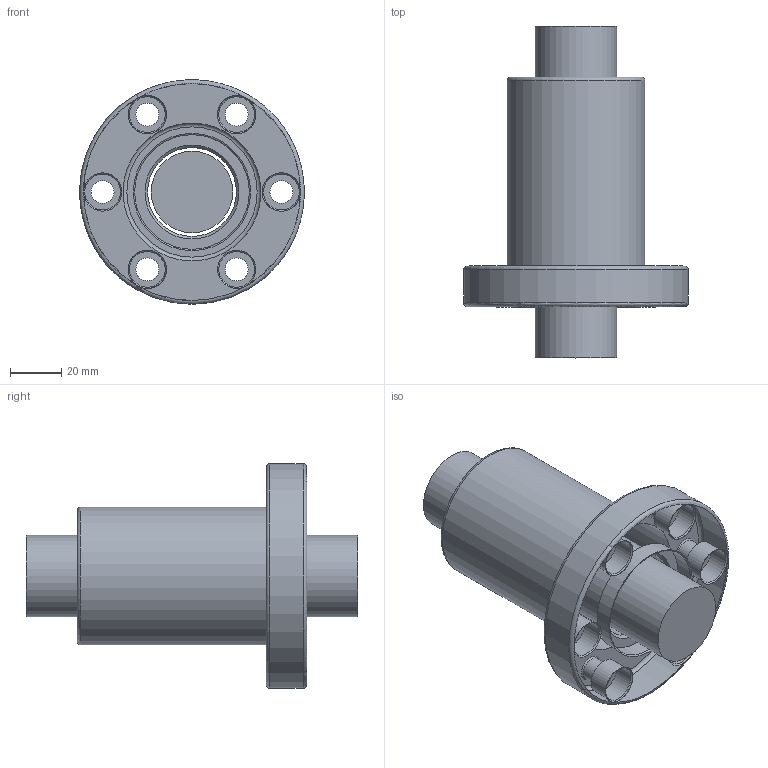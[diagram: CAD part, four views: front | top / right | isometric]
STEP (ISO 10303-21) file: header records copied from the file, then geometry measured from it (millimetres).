
FILE_DESCRIPTION(/* description */ (''),/* implementation_level */ '2;1');
FILE_NAME(/* name */ '3210T4N.prt.step',/* time_stamp */ '2008-12-05T09:36:29+08:00',/* author */ (''),/* organization */ (''),/* preprocessor_version */ 'ST-DEVELOPER v11',/* originating_system */ 'SIEMENS UGS NX 6.0',/* authorisation */ '');
FILE_SCHEMA (('AUTOMOTIVE_DESIGN { 1 0 10303 214 1 1 1 1 }'));
Length unit declared in the file: millimetre
Products named in the file (1): 3210T4N
Bounding box: 88 x 130 x 88 mm (x, y, z)
Volume: 264940.4 mm3; surface area: 54168.9 mm2
Topology: 2 solids, 2 shells, 50 faces, 115 edges, 72 vertices
Faces by surface type: cylinder 18, cone 14, plane 13, torus 5
Full cylindrical faces by diameter (mm): 9 x6, 14 x6, 31.95 x1, 34.8 x1, 44.9 x2, 54 x1, 88 x1
Entity records: 1138 total; most frequent: DIRECTION 222, CARTESIAN_POINT 165, ORIENTED_EDGE 120, AXIS2_PLACEMENT_3D 111, EDGE_LOOP 104, FACE_BOUND 102, EDGE_CURVE 60, CIRCLE 60
